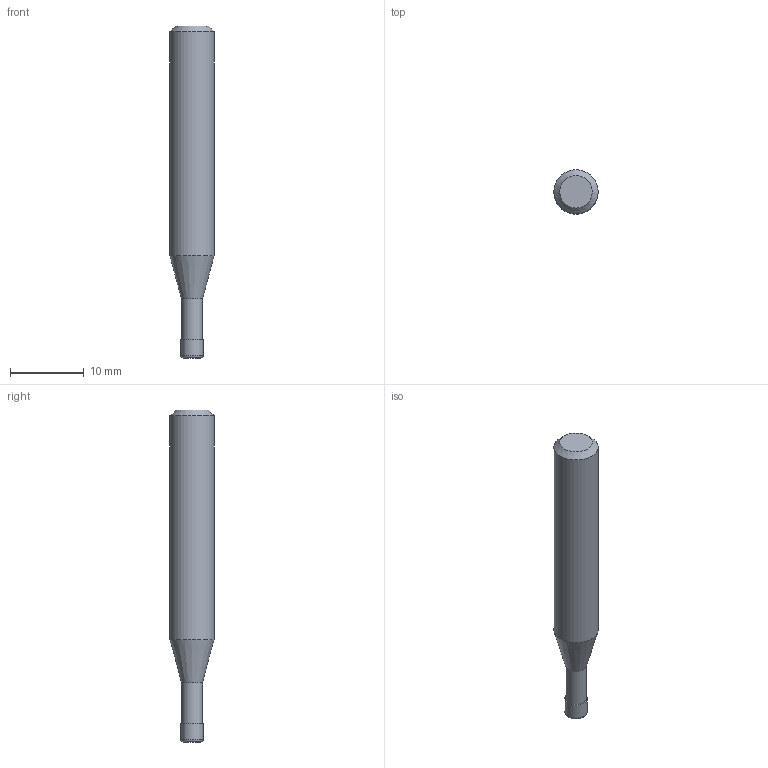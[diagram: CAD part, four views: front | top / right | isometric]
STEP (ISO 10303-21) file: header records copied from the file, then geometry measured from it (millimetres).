
FILE_DESCRIPTION((''),'2;1');
FILE_NAME('C:\Users\nsx150\AppData\Local\Temp\Mastercam 2021\8MCJJJGUOI\TEMP.step','2022-10-12T10:45:42',(''),(''),'STEP Write','Mastercam 2021 ... CNC Software, Inc.','');
FILE_SCHEMA(('AUTOMOTIVE_DESIGN'));
Length unit declared in the file: millimetre
Products named in the file (1): None
Bounding box: 6 x 6 x 45 mm (x, y, z)
Volume: 1021.3 mm3; surface area: 781.9 mm2
Topology: 2 solids, 2 shells, 10 faces, 14 edges, 8 vertices
Faces by surface type: plane 4, cylinder 3, cone 2, torus 1
Full cylindrical faces by diameter (mm): 2.85 x1, 3 x1, 6 x1
Entity records: 232 total; most frequent: DIRECTION 40, CARTESIAN_POINT 28, AXIS2_PLACEMENT_3D 20, ORIENTED_EDGE 16, EDGE_LOOP 16, STYLED_ITEM 13, ADVANCED_FACE 10, FACE_BOUND 10
